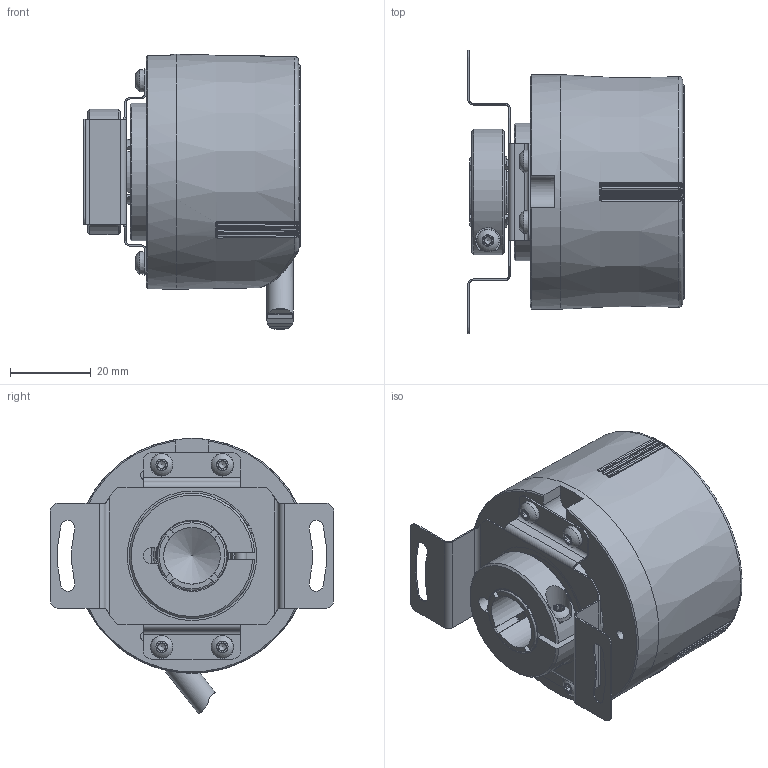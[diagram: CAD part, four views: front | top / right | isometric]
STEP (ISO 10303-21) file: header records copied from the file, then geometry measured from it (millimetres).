
FILE_DESCRIPTION( ( 'Unknown' ), '1' );
FILE_NAME( '//emea.baumernet.org/de05d/RD/caddy/k/GESAMT/EIL580/EIL580/3D/STEP/MarCom/EIL580-BT14.7Px.xxxxx.A.stp', 'Unknown', ( 'Unknown' ), ( 'Unknown' ), 'PSStep 19.0.9', 'Unknown', ' ' );
FILE_SCHEMA( ( 'AUTOMOTIVE_DESIGN { 1 0 10303 214 1 1 1 1 }' ) );
Length unit declared in the file: millimetre
Products named in the file (2): Assem1; 1_42
Assembly tree (1 placements, depth 2):
  Assem1
    1_42
Bounding box: 53.5 x 70 x 67.97 mm (x, y, z)
Volume: 100327.5 mm3; surface area: 25616.2 mm2
Topology: 1 solids, 13 shells, 741 faces, 1817 edges, 1100 vertices
Faces by surface type: cylinder 283, plane 215, bspline 118, cone 57, torus 36, sphere 30, revolution 2
Full cylindrical faces by diameter (mm): 2.46 x15, 2.998 x1, 3 x4, 3.2 x5, 4 x1, 5.5 x1, 6.5 x1, 6.97 x2, 7 x1, 7.7 x1, 8.5 x1, 9 x1, 12.2 x1, 14 x1, 16.8 x1, 19 x2, 19.312 x1, 20.262 x1, 20.704 x1, 22 x1, 23.904 x1, 24.927 x1, 25.2 x1, 25.558 x1, 26 x2, 32 x1, 34 x1, 58 x1
Entity records: 62814 total; most frequent: CARTESIAN_POINT 40991, ORIENTED_EDGE 3328, DIRECTION 3144, EDGE_CURVE 1664, AXIS2_PLACEMENT_3D 1364, VERTEX_POINT 1079, EDGE_LOOP 907, FACE_OUTER_BOUND 809
